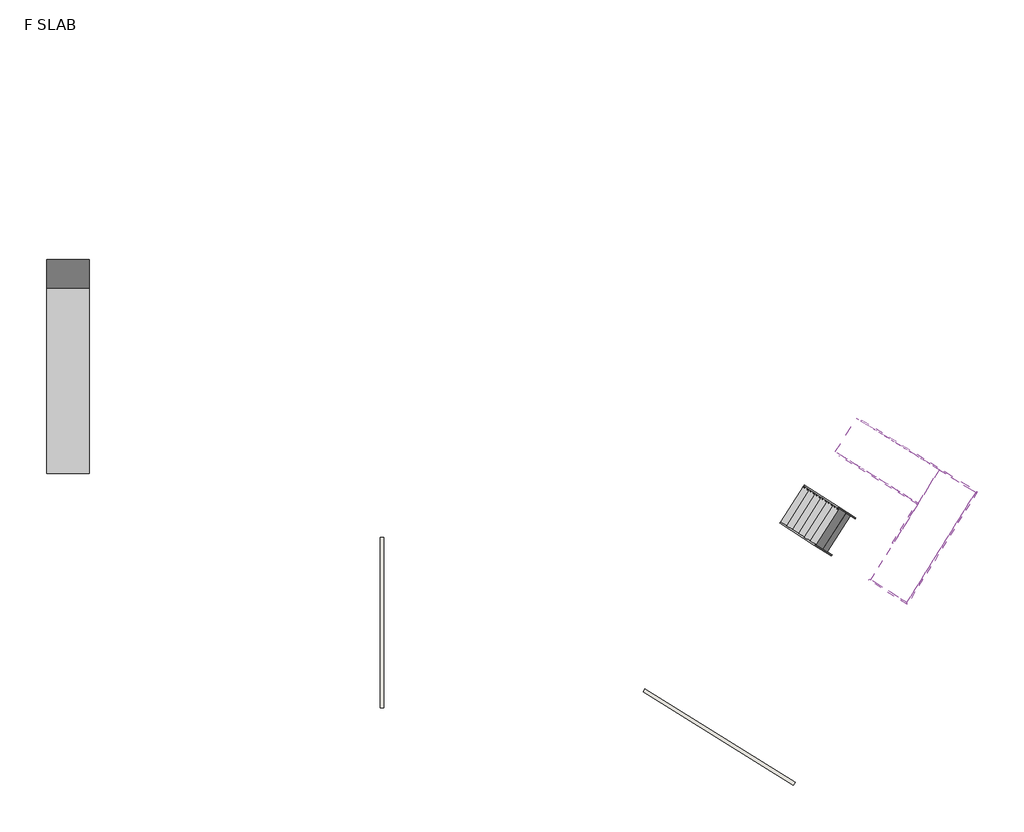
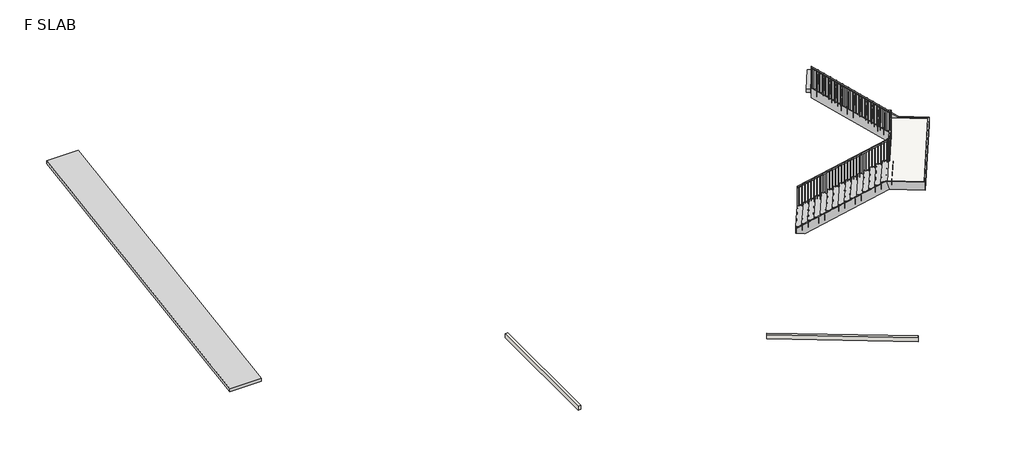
# One storey: 8 members, 2 stair flights, 2 walls, 1 railing, 1 ramp, 1 slab.
"""IFC4 building model written with IfcOpenShell, lengths in millimetres."""

from ifc_helpers import new_model, si_unit, frame, origin, place, context, project, spatial, polyline, outline, extrude, faceted_brep, transform, mapped, element, save
from components import standard_2_a2f922cc, slab_f578b30b, wood_steps_w_50mm_tread_10mm_nosing_13mm_riser_dacc1f6c, wood_steps_w_50mm_tread_10mm_nosing_13mm_riser_bbbc8e6f

model = new_model("IFC4")

# Units and contexts
model_context = context("Model", 3, world=origin())
ifc_project = project(units=[si_unit("LENGTHUNIT", "METRE", prefix="MILLI")], contexts=[model_context])

# Site, building, storey
site = spatial("IfcSite", under=ifc_project)
building = spatial("IfcBuilding", under=site)
storey = spatial("IfcBuildingStorey", under=building, Name="F SLAB", Elevation=800.0)

# Members
placement = place(None, origin())
element("IfcMember", 1, ObjectType="Stringer-50mm_Width", at=placement, inside=storey, context=model_context, shape_type="Brep", body=[
    faceted_brep([(13345.5592884, 10804.5205826, 800.0), (13372.4936271, 10846.6458885, 800.0), (13684.0745129, 10647.4253742, 800.0), (13657.1401742, 10605.3000683, 800.0), (13345.5592884, 10804.5205826, 1033.5551302), (13372.4936271, 10846.6458885, 1033.5551302), (16470.9684235, 8806.1771547, 3522.6156419), (16497.408374, 8848.6185656, 3522.2219135), (16497.408374, 8848.6185656, 3040.5252935), (16470.9684235, 8806.1771547, 3040.9190219)], [[[0, 1, 2, 3]], [[4, 5, 1, 0]], [[5, 4, 6, 7]], [[1, 5, 7, 8, 2]], [[4, 0, 3, 9, 6]], [[2, 8, 9, 3]], [[6, 9, 8, 7]]]),
])
element("IfcMember", 2, ObjectType="Stringer-50mm_Width", at=placement, inside=storey, context=model_context, shape_type="SweptSolid", body=[
    extrude(outline(polyline([(268.3870968, -400.0), (138.2570923, -206.0562433), (445.3601472, 0.0), (4620.5774421, 0.0), (4742.3368277, -400.0), (268.3870968, -400.0)])), frame((12510.5947886, 9498.6360992, 551.8585102), z_axis=(0.538686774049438, 0.8425061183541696, 0.0), x_axis=(0.699615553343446, -0.44732452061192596, 0.5571703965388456)), (0.0, 0.0, 1.0), 50.0),
])
element("IfcMember", 3, ObjectType="Stringer-50mm_Width", at=placement, inside=storey, context=model_context, shape_type="SweptSolid", body=[
    extrude(outline(polyline([(-268.3870967, -399.9999999), (0.0, 0.0), (3913.7850375, 0.0), (3645.3979407, -400.0), (-268.3870967, -399.9999999)])), frame((17368.2560586, 10151.9429544, 3717.4260979), z_axis=(0.5287625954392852, 0.8487697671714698, 0.0), x_axis=(-0.7048168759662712, 0.4390835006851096, 0.5571703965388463)), (0.0, 0.0, 1.0), 50.0),
])
element("IfcMember", 4, ObjectType="Stringer-50mm_Width", at=placement, inside=storey, context=model_context, shape_type="SweptSolid", body=[
    extrude(outline(polyline([(-464.7758546, -399.9999999), (-343.016469, 0.0), (3913.7850375, 0.0), (3645.3979407, -400.0), (-464.7758546, -399.9999999)])), frame((18133.7615472, 11380.7324356, 3717.4260979), z_axis=(0.5287625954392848, 0.8487697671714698, 0.0), x_axis=(-0.7048168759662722, 0.4390835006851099, 0.557170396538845)), (0.0, 0.0, 1.0), 50.0),
])
element("IfcMember", 5, ObjectType="Stringer-50mm_Width", at=placement, inside=storey, context=model_context, shape_type="SweptSolid", body=[
    extrude(outline(polyline([(17325.8175703, 10178.3810842), (17368.2560586, 10151.9429544), (16513.0966305, 8779.2409611), (16470.9684235, 8806.1771547), (17325.8175703, 10178.3810842)])), frame((0.0, 0.0, 3126.3074759), z_axis=(0.0, 0.0, 1.0), x_axis=(1.0, 0.0, 0.0)), (0.0, 0.0, 1.0), 400.0),
])
element("IfcMember", 6, ObjectType="Stringer-50mm_Width", at=placement, inside=storey, context=model_context, shape_type="Brep", body=[
    faceted_brep([(15667.5739439, 7539.4539864, 3526.3074759), (15640.6396052, 7497.3286805, 3526.3074759), (16999.4325807, 6628.5352218, 3526.3074759), (16983.7443242, 6697.9128263, 3526.3074759), (15770.1569712, 7473.8638158, 3126.3074759), (16983.7443242, 6697.9128263, 3126.3074759), (15743.2226325, 7431.7385099, 3126.3074759), (16999.4325807, 6628.5352218, 3126.3074759)], [[[0, 1, 2, 3]], [[4, 0, 3, 5]], [[6, 4, 5, 7]], [[1, 6, 7, 2]], [[1, 0, 4, 6]], [[2, 7, 5, 3]]]),
])
element("IfcMember", 7, ObjectType="Stringer-50mm_Width", at=placement, inside=storey, context=model_context, shape_type="SweptSolid", body=[
    extrude(outline(polyline([(16999.4325807, 6628.5352218), (16983.7443242, 6697.9128263), (19406.916198, 10587.5885424), (19475.7928161, 10603.588901), (16999.4325807, 6628.5352218)])), frame((0.0, 0.0, 3126.3074759), z_axis=(0.0, 0.0, 1.0), x_axis=(1.0, 0.0, 0.0)), (0.0, 0.0, 1.0), 400.0),
])
element("IfcMember", 8, ObjectType="Stringer-50mm_Width", at=placement, inside=storey, context=model_context, shape_type="Brep", body=[
    faceted_brep([(19406.916198, 10587.5885424, 3526.3074759), (19475.7928161, 10603.588901, 3526.3074759), (18401.9634731, 11272.5580519, 3526.3074759), (18375.5253433, 11230.1195636, 3526.3074759), (19406.916198, 10587.5885424, 3126.3074759), (18272.179658, 11294.5013723, 3126.3074759), (19475.7928161, 10603.588901, 3126.3074759), (18298.6177878, 11336.9398607, 3126.3074759)], [[[0, 1, 2, 3]], [[4, 0, 3, 5]], [[6, 4, 5, 7]], [[1, 6, 7, 2]], [[1, 0, 4, 6]], [[2, 7, 5, 3]]]),
])

# Railing
element("IfcRailing", 9, ObjectType="1100mm", at=placement, inside=storey, context=model_context, shape_type="SolidModel", body=[
    faceted_brep([(13345.3438137, 10804.1835802, 2067.7419355), (13345.3438137, 10804.1835802, 2007.529858), (13318.409475, 10762.0582742, 2007.529858), (13318.409475, 10762.0582742, 2067.7419355), (16450.2828222, 8818.9284684, 4540.5001387), (16492.4081282, 8791.9941297, 4513.8364483), (16465.4737895, 8749.8688238, 4513.8364483), (16423.3484835, 8776.8031625, 4540.5001387), (16450.2828222, 8818.9284684, 4583.8709677), (16492.4081282, 8791.9941297, 4533.8709677), (16465.4737895, 8749.8688238, 4533.8709677), (16423.3484835, 8776.8031625, 4583.8709677), (16513.2221365, 8778.6859403, 4583.8709677), (16513.2221365, 8778.6859403, 4533.8709677), (16528.910393, 8709.3083358, 4533.8709677), (16528.910393, 8709.3083358, 4583.8709677), (16552.7232801, 8842.0931796, 4583.8709677), (16552.7232801, 8842.0931796, 4533.8709677), (16595.1617685, 8815.6550499, 4533.8709677), (16595.1617685, 8815.6550499, 4583.8709677), (17355.5880067, 10130.8517131, 4583.8709677), (17382.0261364, 10173.2902014, 4533.8709677), (17424.4646248, 10146.8520717, 4533.8709677), (17398.026495, 10104.4135833, 4583.8709677), (17355.5880067, 10130.8517131, 4801.6670968), (17382.0261364, 10173.2902014, 4751.6670968), (17424.4646248, 10146.8520717, 4751.6670968), (17398.026495, 10104.4135833, 4801.6670968), (17395.2452013, 10194.5094456, 4801.6670968), (17395.2452013, 10194.5094456, 4751.6670968), (17464.1218195, 10210.5098042, 4751.6670968), (17464.1218195, 10210.5098042, 4801.6670968), (17331.5874688, 10234.1666403, 4801.6670968), (17318.6692581, 10242.2143664, 4751.6670968), (17345.1073879, 10284.6528547, 4751.6670968), (17358.0255986, 10276.6051286, 4801.6670968), (14636.4039501, 11913.1993858, 6932.2580645), (14662.8420799, 11955.6378742, 6932.2580645), (14662.8420799, 11955.6378742, 6872.045987), (14636.4039501, 11913.1993858, 6872.045987)], [[[0, 1, 2, 3]], [[1, 0, 4, 5]], [[2, 1, 5, 6]], [[3, 2, 6, 7]], [[0, 3, 7, 4]], [[5, 4, 8, 9]], [[6, 5, 9, 10]], [[7, 6, 10, 11]], [[4, 7, 11, 8]], [[9, 8, 12, 13]], [[10, 9, 13, 14]], [[11, 10, 14, 15]], [[8, 11, 15, 12]], [[13, 12, 16, 17]], [[14, 13, 17, 18]], [[15, 14, 18, 19]], [[12, 15, 19, 16]], [[17, 16, 20, 21]], [[18, 17, 21, 22]], [[19, 18, 22, 23]], [[16, 19, 23, 20]], [[21, 20, 24, 25]], [[22, 21, 25, 26]], [[23, 22, 26, 27]], [[20, 23, 27, 24]], [[25, 24, 28, 29]], [[26, 25, 29, 30]], [[27, 26, 30, 31]], [[24, 27, 31, 28]], [[29, 28, 32, 33]], [[30, 29, 33, 34]], [[31, 30, 34, 35]], [[28, 31, 35, 32]], [[36, 37, 38, 39]], [[33, 32, 36, 39]], [[34, 33, 39, 38]], [[35, 34, 38, 37]], [[32, 35, 37, 36]]]),
    extrude(outline(polyline([(108.3870968, 0.0), (91.6129032, 25.0), (1248.5517935, 25.0), (1248.5517935, 0.0), (108.3870968, 0.0)])), frame((14728.2299672, 11870.7212433, 6913.0679225), z_axis=(0.5287625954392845, 0.84876976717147, 0.0), x_axis=(0.0, 0.0, -1.0000000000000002)), (0.0, 0.0, 1.0), 25.0),
    extrude(outline(polyline([(108.3333333, 0.0), (91.6666667, 25.0), (1164.6408121, 25.0), (1164.6408121, 0.0), (108.3333333, 0.0)])), frame((14834.3261881, 11804.6259189, 6829.1569411), z_axis=(0.5287625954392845, 0.84876976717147, 0.0), x_axis=(0.0, 0.0, -1.0000000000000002)), (0.0, 0.0, 1.0), 25.0),
    extrude(outline(polyline([(108.3870968, 0.0), (91.6129032, 25.0), (1248.5517935, 25.0), (1248.5517935, 0.0), (108.3870968, 0.0)])), frame((14940.422409, 11738.5305945, 6745.325987), z_axis=(0.5287625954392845, 0.84876976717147, 0.0), x_axis=(0.0, 0.0, -1.0000000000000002)), (0.0, 0.0, 1.0), 25.0),
    extrude(outline(polyline([(108.3333333, 0.0), (91.6666666, 25.0), (1164.6408121, 25.0), (1164.6408121, 0.0), (108.3333333, 0.0)])), frame((15046.5186299, 11672.4352701, 6661.4150056), z_axis=(0.5287625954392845, 0.84876976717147, 0.0), x_axis=(0.0, 0.0, -1.0000000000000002)), (0.0, 0.0, 1.0), 25.0),
    extrude(outline(polyline([(108.3870967, 0.0), (91.6129032, 25.0), (1248.5517934, 25.0), (1248.5517934, 0.0), (108.3870967, 0.0)])), frame((15152.6148508, 11606.3399456, 6577.5840515), z_axis=(0.5287625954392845, 0.84876976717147, 0.0), x_axis=(0.0, 0.0, -1.0000000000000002)), (0.0, 0.0, 1.0), 25.0),
    extrude(outline(polyline([(108.3333333, 0.0), (91.6666666, 25.0), (1164.640812, 25.0), (1164.640812, 0.0), (108.3333333, 0.0)])), frame((15258.7110717, 11540.2446212, 6493.6730701), z_axis=(0.5287625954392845, 0.84876976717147, 0.0), x_axis=(0.0, 0.0, -1.0000000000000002)), (0.0, 0.0, 1.0), 25.0),
    extrude(outline(polyline([(108.3870967, 0.0), (91.6129032, 25.0), (1248.5517934, 25.0), (1248.5517934, 0.0), (108.3870967, 0.0)])), frame((15364.8072926, 11474.1492968, 6409.842116), z_axis=(0.5287625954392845, 0.84876976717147, 0.0), x_axis=(0.0, 0.0, -1.0000000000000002)), (0.0, 0.0, 1.0), 25.0),
    extrude(outline(polyline([(108.3333334, 0.0), (91.6666667, 25.0), (1164.6408121, 25.0), (1164.6408121, 0.0), (108.3333334, 0.0)])), frame((15470.9035135, 11408.0539723, 6325.9311347), z_axis=(0.5287625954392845, 0.84876976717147, 0.0), x_axis=(0.0, 0.0, -1.0000000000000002)), (0.0, 0.0, 1.0), 25.0),
    extrude(outline(polyline([(108.3870968, 0.0), (91.6129033, 25.0), (1248.5517935, 25.0), (1248.5517935, 0.0), (108.3870968, 0.0)])), frame((15576.9997344, 11341.9586479, 6242.1001806), z_axis=(0.5287625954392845, 0.84876976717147, 0.0), x_axis=(0.0, 0.0, -1.0000000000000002)), (0.0, 0.0, 1.0), 25.0),
    extrude(outline(polyline([(108.3333334, 0.0), (91.6666667, 24.9999999), (1164.6408121, 24.9999999), (1164.6408121, 0.0), (108.3333334, 0.0)])), frame((15683.0959552, 11275.8633235, 6158.1891992), z_axis=(0.5287625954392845, 0.84876976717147, 0.0), x_axis=(0.0, 0.0, -1.0000000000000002)), (0.0, 0.0, 1.0), 25.0),
    extrude(outline(polyline([(108.3870968, 0.0), (91.6129032, 24.9999999), (1248.5517935, 24.9999999), (1248.5517935, 0.0), (108.3870968, 0.0)])), frame((15789.1921761, 11209.767999, 6074.3582451), z_axis=(0.5287625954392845, 0.84876976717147, 0.0), x_axis=(0.0, 0.0, -1.0000000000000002)), (0.0, 0.0, 1.0), 25.0),
    extrude(outline(polyline([(108.3333333, 0.0), (91.6666667, 24.9999999), (1164.6408121, 24.9999999), (1164.6408121, 0.0), (108.3333333, 0.0)])), frame((15895.288397, 11143.6726746, 5990.4472637), z_axis=(0.5287625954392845, 0.84876976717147, 0.0), x_axis=(0.0, 0.0, -1.0000000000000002)), (0.0, 0.0, 1.0), 25.0),
    extrude(outline(polyline([(108.3870968, 0.0), (91.6129032, 24.9999999), (1248.5517935, 24.9999999), (1248.5517935, 0.0), (108.3870968, 0.0)])), frame((16001.3846179, 11077.5773502, 5906.6163096), z_axis=(0.5287625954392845, 0.84876976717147, 0.0), x_axis=(0.0, 0.0, -1.0000000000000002)), (0.0, 0.0, 1.0), 25.0),
    extrude(outline(polyline([(108.3333333, 0.0), (91.6666667, 24.9999999), (1164.6408121, 24.9999999), (1164.6408121, 0.0), (108.3333333, 0.0)])), frame((16107.4808388, 11011.4820258, 5822.7053282), z_axis=(0.5287625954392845, 0.84876976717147, 0.0), x_axis=(0.0, 0.0, -1.0000000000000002)), (0.0, 0.0, 1.0), 25.0),
    extrude(outline(polyline([(108.3870968, 0.0), (91.6129032, 24.9999999), (1248.5517935, 24.9999999), (1248.5517935, 0.0), (108.3870968, 0.0)])), frame((16213.5770597, 10945.3867013, 5738.8743741), z_axis=(0.5287625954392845, 0.84876976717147, 0.0), x_axis=(0.0, 0.0, -1.0000000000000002)), (0.0, 0.0, 1.0), 25.0),
    extrude(outline(polyline([(108.3333333, 0.0), (91.6666666, 25.0), (1164.6408121, 25.0), (1164.6408121, 0.0), (108.3333333, 0.0)])), frame((16319.6732806, 10879.2913769, 5654.9633927), z_axis=(0.5287625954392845, 0.84876976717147, 0.0), x_axis=(0.0, 0.0, -1.0000000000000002)), (0.0, 0.0, 1.0), 25.0),
    extrude(outline(polyline([(108.3870967, 0.0), (91.6129032, 25.0), (1248.5517934, 25.0), (1248.5517934, 0.0), (108.3870967, 0.0)])), frame((16425.7695015, 10813.1960525, 5571.1324386), z_axis=(0.5287625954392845, 0.84876976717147, 0.0), x_axis=(0.0, 0.0, -1.0000000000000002)), (0.0, 0.0, 1.0), 25.0),
    extrude(outline(polyline([(108.3333333, 0.0), (91.6666666, 25.0), (1164.640812, 25.0), (1164.640812, 0.0), (108.3333333, 0.0)])), frame((16531.8657224, 10747.100728, 5487.2214572), z_axis=(0.5287625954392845, 0.84876976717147, 0.0), x_axis=(0.0, 0.0, -1.0000000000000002)), (0.0, 0.0, 1.0), 25.0),
    extrude(outline(polyline([(108.3870967, 0.0), (91.6129032, 25.0), (1248.5517934, 25.0), (1248.5517934, 0.0), (108.3870967, 0.0)])), frame((16637.9619433, 10681.0054036, 5403.3905031), z_axis=(0.5287625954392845, 0.84876976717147, 0.0), x_axis=(0.0, 0.0, -1.0000000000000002)), (0.0, 0.0, 1.0), 25.0),
    extrude(outline(polyline([(108.3333334, 0.0), (91.6666667, 25.0), (1164.6408121, 25.0), (1164.6408121, 0.0), (108.3333334, 0.0)])), frame((16744.0581642, 10614.9100792, 5319.4795218), z_axis=(0.5287625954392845, 0.84876976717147, 0.0), x_axis=(0.0, 0.0, -1.0000000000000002)), (0.0, 0.0, 1.0), 25.0),
    extrude(outline(polyline([(108.3870968, 0.0), (91.6129033, 25.0), (1248.5517935, 25.0), (1248.5517935, 0.0), (108.3870968, 0.0)])), frame((16850.1543851, 10548.8147547, 5235.6485677), z_axis=(0.5287625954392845, 0.84876976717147, 0.0), x_axis=(0.0, 0.0, -1.0000000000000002)), (0.0, 0.0, 1.0), 25.0),
    extrude(outline(polyline([(108.3333334, 0.0), (91.6666667, 25.0), (1164.6408121, 25.0), (1164.6408121, 0.0), (108.3333334, 0.0)])), frame((16956.250606, 10482.7194303, 5151.7375863), z_axis=(0.5287625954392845, 0.84876976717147, 0.0), x_axis=(0.0, 0.0, -1.0000000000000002)), (0.0, 0.0, 1.0), 25.0),
    extrude(outline(polyline([(108.3870968, 0.0), (91.6129032, 25.0), (1248.5517935, 25.0), (1248.5517935, 0.0), (108.3870968, 0.0)])), frame((17062.3468269, 10416.6241059, 5067.9066322), z_axis=(0.5287625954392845, 0.84876976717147, 0.0), x_axis=(0.0, 0.0, -1.0000000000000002)), (0.0, 0.0, 1.0), 25.0),
    extrude(outline(polyline([(108.3333333, 0.0), (91.6666667, 25.0), (1164.6408121, 25.0), (1164.6408121, 0.0), (108.3333333, 0.0)])), frame((17168.4430478, 10350.5287815, 4983.9956508), z_axis=(0.5287625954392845, 0.84876976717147, 0.0), x_axis=(0.0, 0.0, -1.0000000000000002)), (0.0, 0.0, 1.0), 25.0),
    extrude(outline(polyline([(108.3870968, 0.0), (91.6129032, 25.0), (1248.5517935, 25.0), (1248.5517935, 0.0), (108.3870968, 0.0)])), frame((17274.5392687, 10284.433457, 4900.1646967), z_axis=(0.5287625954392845, 0.84876976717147, 0.0), x_axis=(0.0, 0.0, -1.0000000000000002)), (0.0, 0.0, 1.0), 25.0),
    extrude(outline(polyline([(17380.6354896, 10218.3381326), (17359.4162454, 10231.5571975), (17372.6353103, 10252.7764417), (17393.8545545, 10239.5573768), (17380.6354896, 10218.3381326)])), frame((0.0, 0.0, 3651.6129032), z_axis=(0.0, 0.0, 1.0), x_axis=(1.0, 0.0, 0.0)), (0.0, 0.0, 1.0), 1100.0541935),
    extrude(outline(polyline([(17396.13399, 10172.2960305), (17409.3530549, 10193.5152747), (17430.5722991, 10180.2962098), (17417.3532342, 10159.0769656), (17396.13399, 10172.2960305)])), frame((0.0, 0.0, 3483.8709677), z_axis=(0.0, 0.0, 1.0), x_axis=(1.0, 0.0, 0.0)), (0.0, 0.0, 1.0), 1267.796129),
    extrude(outline(polyline([(17330.0386656, 10066.1998096), (17343.2577305, 10087.4190538), (17364.4769746, 10074.1999889), (17351.2579098, 10052.9807447), (17330.0386656, 10066.1998096)])), frame((0.0, 0.0, 3483.8709677), z_axis=(0.0, 0.0, 1.0), x_axis=(1.0, 0.0, 0.0)), (0.0, 0.0, 1.0), 1050.0),
    extrude(outline(polyline([(17263.9433411, 9960.1035887), (17277.162406, 9981.3228329), (17298.3816502, 9968.103768), (17285.1625853, 9946.8845238), (17263.9433411, 9960.1035887)])), frame((0.0, 0.0, 3483.8709677), z_axis=(0.0, 0.0, 1.0), x_axis=(1.0, 0.0, 0.0)), (0.0, 0.0, 1.0), 1050.0),
    extrude(outline(polyline([(17197.8480167, 9854.0073678), (17211.0670816, 9875.226612), (17232.2863258, 9862.0075471), (17219.0672609, 9840.7883029), (17197.8480167, 9854.0073678)])), frame((0.0, 0.0, 3483.8709677), z_axis=(0.0, 0.0, 1.0), x_axis=(1.0, 0.0, 0.0)), (0.0, 0.0, 1.0), 1050.0),
    extrude(outline(polyline([(17131.7526923, 9747.9111469), (17144.9717572, 9769.1303911), (17166.1910014, 9755.9113262), (17152.9719365, 9734.692082), (17131.7526923, 9747.9111469)])), frame((0.0, 0.0, 3483.8709677), z_axis=(0.0, 0.0, 1.0), x_axis=(1.0, 0.0, 0.0)), (0.0, 0.0, 1.0), 1050.0),
    extrude(outline(polyline([(17065.6573679, 9641.814926), (17078.8764327, 9663.0341702), (17100.0956769, 9649.8151053), (17086.876612, 9628.5958611), (17065.6573679, 9641.814926)])), frame((0.0, 0.0, 3483.8709677), z_axis=(0.0, 0.0, 1.0), x_axis=(1.0, 0.0, 0.0)), (0.0, 0.0, 1.0), 1050.0),
    extrude(outline(polyline([(16999.5620434, 9535.7187051), (17012.7811083, 9556.9379493), (17034.0003525, 9543.7188844), (17020.7812876, 9522.4996402), (16999.5620434, 9535.7187051)])), frame((0.0, 0.0, 3483.8709677), z_axis=(0.0, 0.0, 1.0), x_axis=(1.0, 0.0, 0.0)), (0.0, 0.0, 1.0), 1050.0),
    extrude(outline(polyline([(16933.466719, 9429.6224842), (16946.6857839, 9450.8417284), (16967.9050281, 9437.6226635), (16954.6859632, 9416.4034193), (16933.466719, 9429.6224842)])), frame((0.0, 0.0, 3483.8709677), z_axis=(0.0, 0.0, 1.0), x_axis=(1.0, 0.0, 0.0)), (0.0, 0.0, 1.0), 1050.0),
    extrude(outline(polyline([(16867.3713946, 9323.5262633), (16880.5904595, 9344.7455075), (16901.8097036, 9331.5264426), (16888.5906387, 9310.3071984), (16867.3713946, 9323.5262633)])), frame((0.0, 0.0, 3483.8709677), z_axis=(0.0, 0.0, 1.0), x_axis=(1.0, 0.0, 0.0)), (0.0, 0.0, 1.0), 1050.0),
    extrude(outline(polyline([(16801.2760701, 9217.4300424), (16814.495135, 9238.6492866), (16835.7143792, 9225.4302217), (16822.4953143, 9204.2109775), (16801.2760701, 9217.4300424)])), frame((0.0, 0.0, 3483.8709677), z_axis=(0.0, 0.0, 1.0), x_axis=(1.0, 0.0, 0.0)), (0.0, 0.0, 1.0), 1050.0),
    extrude(outline(polyline([(16735.1807457, 9111.3338215), (16748.3998106, 9132.5530657), (16769.6190548, 9119.3340008), (16756.3999899, 9098.1147566), (16735.1807457, 9111.3338215)])), frame((0.0, 0.0, 3483.8709677), z_axis=(0.0, 0.0, 1.0), x_axis=(1.0, 0.0, 0.0)), (0.0, 0.0, 1.0), 1050.0),
    extrude(outline(polyline([(16669.0854213, 9005.2376006), (16682.3044862, 9026.4568448), (16703.5237303, 9013.2377799), (16690.3046655, 8992.0185357), (16669.0854213, 9005.2376006)])), frame((0.0, 0.0, 3483.8709677), z_axis=(0.0, 0.0, 1.0), x_axis=(1.0, 0.0, 0.0)), (0.0, 0.0, 1.0), 1050.0),
    extrude(outline(polyline([(16602.9900968, 8899.1413797), (16616.2091617, 8920.3606239), (16637.4284059, 8907.141559), (16624.209341, 8885.9223148), (16602.9900968, 8899.1413797)])), frame((0.0, 0.0, 3483.8709677), z_axis=(0.0, 0.0, 1.0), x_axis=(1.0, 0.0, 0.0)), (0.0, 0.0, 1.0), 1050.0),
    extrude(outline(polyline([(16536.8947724, 8793.0451588), (16550.1138373, 8814.264403), (16571.3330815, 8801.0453381), (16558.1140166, 8779.8260939), (16536.8947724, 8793.0451588)])), frame((0.0, 0.0, 3483.8709677), z_axis=(0.0, 0.0, 1.0), x_axis=(1.0, 0.0, 0.0)), (0.0, 0.0, 1.0), 1050.0),
    extrude(outline(polyline([(16434.8202139, 8813.978359), (16455.8828669, 8800.5111897), (16442.4156975, 8779.4485367), (16421.3530446, 8792.9157061), (16434.8202139, 8813.978359)])), frame((0.0, 0.0, 3316.1290323), z_axis=(0.0, 0.0, 1.0), x_axis=(1.0, 0.0, 0.0)), (0.0, 0.0, 1.0), 1217.7419355),
    extrude(outline(polyline([(1181.5741454, 24.9999999), (1181.5741454, 0.0), (91.6666667, 0.0), (108.3333334, 24.9999999), (1181.5741454, 24.9999999)])), frame((16337.1024327, 8846.7843835, 4497.7031777), z_axis=(0.538686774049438, 0.8425061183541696, 0.0), x_axis=(0.0, 0.0, -1.0)), (0.0, 0.0, 1.0), 25.0),
    extrude(outline(polyline([(1265.5943741, 25.0000001), (1265.5943741, 0.0), (91.6129032, 0.0), (108.3870968, 25.0000001), (1265.5943741, 25.0000001)])), frame((16231.789168, 8914.1202302, 4413.9814709), z_axis=(0.538686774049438, 0.8425061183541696, 0.0), x_axis=(0.0, 0.0, -1.0)), (0.0, 0.0, 1.0), 25.0),
    extrude(outline(polyline([(1181.5741454, 25.0000001), (1181.5741454, 0.0), (91.6666667, 0.0), (108.3333334, 25.0000001), (1181.5741454, 25.0000001)])), frame((16126.4759032, 8981.456077, 4329.9612422), z_axis=(0.538686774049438, 0.8425061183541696, 0.0), x_axis=(0.0, 0.0, -1.0)), (0.0, 0.0, 1.0), 25.0),
    extrude(outline(polyline([(1265.5943741, 25.0), (1265.5943741, 0.0), (91.6129032, 0.0), (108.3870968, 25.0), (1265.5943741, 25.0)])), frame((16021.1626384, 9048.7919238, 4246.2395354), z_axis=(0.538686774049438, 0.8425061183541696, 0.0), x_axis=(0.0, 0.0, -1.0)), (0.0, 0.0, 1.0), 25.0),
    extrude(outline(polyline([(1181.5741454, 25.0000001), (1181.5741454, 0.0), (91.6666667, 0.0), (108.3333333, 25.0000001), (1181.5741454, 25.0000001)])), frame((15915.8493736, 9116.1277705, 4162.2193067), z_axis=(0.538686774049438, 0.8425061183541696, 0.0), x_axis=(0.0, 0.0, -1.0)), (0.0, 0.0, 1.0), 25.0),
    extrude(outline(polyline([(1265.5943741, 25.0), (1265.5943741, 0.0), (91.6129032, 0.0), (108.3870968, 25.0), (1265.5943741, 25.0)])), frame((15810.5361088, 9183.4636173, 4078.4975999), z_axis=(0.538686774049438, 0.8425061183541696, 0.0), x_axis=(0.0, 0.0, -1.0)), (0.0, 0.0, 1.0), 25.0),
    extrude(outline(polyline([(1181.5741454, 25.0000001), (1181.5741454, 0.0), (91.6666667, 0.0), (108.3333333, 25.0000001), (1181.5741454, 25.0000001)])), frame((15705.222844, 9250.799464, 3994.4773712), z_axis=(0.538686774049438, 0.8425061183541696, 0.0), x_axis=(0.0, 0.0, -1.0)), (0.0, 0.0, 1.0), 25.0),
    extrude(outline(polyline([(1265.5943741, 25.0), (1265.5943741, 0.0), (91.6129032, 0.0), (108.3870967, 25.0), (1265.5943741, 25.0)])), frame((15599.9095792, 9318.1353108, 3910.7556644), z_axis=(0.538686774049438, 0.8425061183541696, 0.0), x_axis=(0.0, 0.0, -1.0)), (0.0, 0.0, 1.0), 25.0),
    extrude(outline(polyline([(1181.5741454, 25.0000001), (1181.5741454, 0.0), (91.6666666, 0.0), (108.3333333, 25.0000001), (1181.5741454, 25.0000001)])), frame((15494.5963144, 9385.4711575, 3826.7354357), z_axis=(0.538686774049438, 0.8425061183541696, 0.0), x_axis=(0.0, 0.0, -1.0)), (0.0, 0.0, 1.0), 25.0),
    extrude(outline(polyline([(1265.5943742, 25.0), (1265.5943742, 0.0), (91.6129033, 0.0), (108.3870968, 25.0), (1265.5943742, 25.0)])), frame((15389.2830496, 9452.8070043, 3743.013729), z_axis=(0.538686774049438, 0.8425061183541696, 0.0), x_axis=(0.0, 0.0, -1.0)), (0.0, 0.0, 1.0), 25.0),
    extrude(outline(polyline([(1181.5741454, 25.0), (1181.5741454, 0.0), (91.6666666, 0.0), (108.3333333, 25.0), (1181.5741454, 25.0)])), frame((15283.9697848, 9520.1428511, 3658.9935002), z_axis=(0.538686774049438, 0.8425061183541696, 0.0), x_axis=(0.0, 0.0, -1.0)), (0.0, 0.0, 1.0), 25.0),
    extrude(outline(polyline([(1265.5943741, 25.0), (1265.5943741, 0.0), (91.6129033, 0.0), (108.3870968, 25.0), (1265.5943741, 25.0)])), frame((15178.65652, 9587.4786978, 3575.2717935), z_axis=(0.538686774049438, 0.8425061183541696, 0.0), x_axis=(0.0, 0.0, -1.0)), (0.0, 0.0, 1.0), 25.0),
    extrude(outline(polyline([(1181.5741454, 24.9999999), (1181.5741454, 0.0), (91.6666667, 0.0), (108.3333334, 24.9999999), (1181.5741454, 24.9999999)])), frame((15073.3432552, 9654.8145446, 3491.2515648), z_axis=(0.538686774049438, 0.8425061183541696, 0.0), x_axis=(0.0, 0.0, -1.0)), (0.0, 0.0, 1.0), 25.0),
    extrude(outline(polyline([(1265.5943741, 25.0), (1265.5943741, 0.0), (91.6129032, 0.0), (108.3870968, 25.0), (1265.5943741, 25.0)])), frame((14968.0299904, 9722.1503913, 3407.529858), z_axis=(0.538686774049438, 0.8425061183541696, 0.0), x_axis=(0.0, 0.0, -1.0)), (0.0, 0.0, 1.0), 25.0),
    extrude(outline(polyline([(1181.5741454, 24.9999999), (1181.5741454, 0.0), (91.6666667, 0.0), (108.3333334, 24.9999999), (1181.5741454, 24.9999999)])), frame((14862.7167256, 9789.4862381, 3323.5096293), z_axis=(0.538686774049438, 0.8425061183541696, 0.0), x_axis=(0.0, 0.0, -1.0)), (0.0, 0.0, 1.0), 25.0),
    extrude(outline(polyline([(1265.5943741, 25.0), (1265.5943741, 0.0), (91.6129032, 0.0), (108.3870968, 25.0), (1265.5943741, 25.0)])), frame((14757.4034608, 9856.8220848, 3239.7879225), z_axis=(0.538686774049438, 0.8425061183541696, 0.0), x_axis=(0.0, 0.0, -1.0)), (0.0, 0.0, 1.0), 25.0),
    extrude(outline(polyline([(1181.5741454, 24.9999999), (1181.5741454, 0.0), (91.6666667, 0.0), (108.3333333, 24.9999999), (1181.5741454, 24.9999999)])), frame((14652.090196, 9924.1579316, 3155.7676938), z_axis=(0.538686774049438, 0.8425061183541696, 0.0), x_axis=(0.0, 0.0, -1.0)), (0.0, 0.0, 1.0), 25.0),
    extrude(outline(polyline([(1265.5943741, 25.0), (1265.5943741, 0.0), (91.6129032, 0.0), (108.3870968, 25.0), (1265.5943741, 25.0)])), frame((14546.7769312, 9991.4937783, 3072.045987), z_axis=(0.538686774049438, 0.8425061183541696, 0.0), x_axis=(0.0, 0.0, -1.0)), (0.0, 0.0, 1.0), 25.0),
    extrude(outline(polyline([(1181.5741454, 25.0), (1181.5741454, 0.0), (91.6666667, 0.0), (108.3333333, 25.0), (1181.5741454, 25.0)])), frame((14441.4636664, 10058.8296251, 2988.0257583), z_axis=(0.538686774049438, 0.8425061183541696, 0.0), x_axis=(0.0, 0.0, -1.0)), (0.0, 0.0, 1.0), 25.0),
    extrude(outline(polyline([(1265.5943741, 25.0), (1265.5943741, 0.0), (91.6129032, 0.0), (108.3870967, 25.0), (1265.5943741, 25.0)])), frame((14336.1504017, 10126.1654719, 2904.3040515), z_axis=(0.538686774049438, 0.8425061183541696, 0.0), x_axis=(0.0, 0.0, -1.0)), (0.0, 0.0, 1.0), 25.0),
    extrude(outline(polyline([(1181.5741454, 25.0000001), (1181.5741454, 0.0), (91.6666666, 0.0), (108.3333333, 25.0000001), (1181.5741454, 25.0000001)])), frame((14230.8371369, 10193.5013186, 2820.2838228), z_axis=(0.538686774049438, 0.8425061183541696, 0.0), x_axis=(0.0, 0.0, -1.0)), (0.0, 0.0, 1.0), 25.0),
    extrude(outline(polyline([(1265.5943741, 25.0), (1265.5943741, 0.0), (91.6129032, 0.0), (108.3870967, 25.0), (1265.5943741, 25.0)])), frame((14125.5238721, 10260.8371654, 2736.562116), z_axis=(0.538686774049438, 0.8425061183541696, 0.0), x_axis=(0.0, 0.0, -1.0)), (0.0, 0.0, 1.0), 25.0),
    extrude(outline(polyline([(1181.5741454, 25.0000001), (1181.5741454, 0.0), (91.6666666, 0.0), (108.3333333, 25.0000001), (1181.5741454, 25.0000001)])), frame((14020.2106073, 10328.1730121, 2652.5418873), z_axis=(0.538686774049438, 0.8425061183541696, 0.0), x_axis=(0.0, 0.0, -1.0)), (0.0, 0.0, 1.0), 25.0),
    extrude(outline(polyline([(1265.5943741, 25.0), (1265.5943741, 0.0), (91.6129033, 0.0), (108.3870968, 25.0), (1265.5943741, 25.0)])), frame((13914.8973425, 10395.5088589, 2568.8201806), z_axis=(0.538686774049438, 0.8425061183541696, 0.0), x_axis=(0.0, 0.0, -1.0)), (0.0, 0.0, 1.0), 25.0),
    extrude(outline(polyline([(1181.5741454, 25.0000001), (1181.5741454, 0.0), (91.6666667, 0.0), (108.3333334, 25.0000001), (1181.5741454, 25.0000001)])), frame((13809.5840777, 10462.8447056, 2484.7999519), z_axis=(0.538686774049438, 0.8425061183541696, 0.0), x_axis=(0.0, 0.0, -1.0)), (0.0, 0.0, 1.0), 25.0),
    extrude(outline(polyline([(1265.5943741, 25.0), (1265.5943741, 0.0), (91.6129032, 0.0), (108.3870968, 25.0), (1265.5943741, 25.0)])), frame((13704.2708129, 10530.1805524, 2401.0782451), z_axis=(0.538686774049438, 0.8425061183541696, 0.0), x_axis=(0.0, 0.0, -1.0)), (0.0, 0.0, 1.0), 25.0),
    extrude(outline(polyline([(1181.5741454, 25.0), (1181.5741454, 0.0), (91.6666667, 0.0), (108.3333334, 25.0), (1181.5741454, 25.0)])), frame((13598.9575481, 10597.5163992, 2317.0580164), z_axis=(0.538686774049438, 0.8425061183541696, 0.0), x_axis=(0.0, 0.0, -1.0)), (0.0, 0.0, 1.0), 25.0),
    extrude(outline(polyline([(1265.5943741, 25.0000001), (1265.5943741, 0.0), (91.6129032, 0.0), (108.3870968, 25.0000001), (1265.5943741, 25.0000001)])), frame((13493.6442833, 10664.8522459, 2233.3363096), z_axis=(0.538686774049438, 0.8425061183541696, 0.0), x_axis=(0.0, 0.0, -1.0)), (0.0, 0.0, 1.0), 25.0),
    extrude(outline(polyline([(1181.5741454, 25.0), (1181.5741454, 0.0), (91.6666667, 0.0), (108.3333333, 25.0), (1181.5741454, 25.0)])), frame((13388.3310185, 10732.1880927, 2149.3160809), z_axis=(0.538686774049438, 0.8425061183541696, 0.0), x_axis=(0.0, 0.0, -1.0)), (0.0, 0.0, 1.0), 25.0),
    extrude(outline(polyline([(17412.4643559, 10198.5095353), (17425.6834207, 10219.7287794), (17446.9026649, 10206.5097146), (17433.6836, 10185.2904704), (17412.4643559, 10198.5095353)])), frame((0.0, 0.0, 3483.8709677), z_axis=(0.0, 0.0, 1.0), x_axis=(1.0, 0.0, 0.0)), (0.0, 0.0, 1.0), 1267.796129),
    extrude(outline(polyline([(16517.2685229, 8761.2620492), (16538.3311759, 8747.7948798), (16524.8640065, 8726.7322269), (16503.8013536, 8740.1993962), (16517.2685229, 8761.2620492)])), frame((0.0, 0.0, 3483.8709677), z_axis=(0.0, 0.0, 1.0), x_axis=(1.0, 0.0, 0.0)), (0.0, 0.0, 1.0), 1050.0),
    extrude(outline(polyline([(16487.4768463, 8780.3104357), (16508.5394993, 8766.8432663), (16495.0723299, 8745.7806134), (16474.009677, 8759.2477827), (16487.4768463, 8780.3104357)])), frame((0.0, 0.0, 3483.8709677), z_axis=(0.0, 0.0, 1.0), x_axis=(1.0, 0.0, 0.0)), (0.0, 0.0, 1.0), 1050.0),
    extrude(outline(polyline([(108.3870967, 0.0), (91.6129032, 24.9999999), (1299.1427612, 24.9999999), (1299.1427612, 0.0), (108.3870967, 0.0)])), frame((14664.2327267, 11910.589943, 6963.6588902), z_axis=(0.5287625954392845, 0.84876976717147, 0.0), x_axis=(0.0, 0.0, -1.0000000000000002)), (0.0, 0.0, 1.0), 25.0),
    extrude(outline(polyline([(1148.2408121, 25.0), (1148.2408121, 0.0), (91.6666667, 0.0), (108.3333334, 25.0), (1148.2408121, 25.0)])), frame((13346.2057126, 10759.1224314, 2115.9827476), z_axis=(0.538686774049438, 0.8425061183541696, 0.0), x_axis=(0.0, 0.0, -1.0)), (0.0, 0.0, 1.0), 25.0),
])

# Ramp
standard_2_shape = standard_2_a2f922cc(model_context)
element("IfcRamp", 10, ObjectType="Standard 2", at=placement, inside=storey, context=model_context, shape_type="MappedRepresentation", body=[
    mapped(standard_2_shape, transform((0.0, 0.0, 0.0), x_axis=(1.0, 0.0, 0.0), y_axis=(0.0, 1.0, 0.0), z_axis=(0.0, 0.0, 1.0))),
])

# Slab
slab_shape = slab_f578b30b(model_context)
element("IfcSlab", 11, ObjectType="Non-Monolitic_Landing", at=placement, inside=storey, context=model_context, shape_type="MappedRepresentation", body=[
    mapped(slab_shape, transform((0.0, 0.0, 0.0), x_axis=(1.0, 0.0, 0.0), y_axis=(0.0, 1.0, 0.0), z_axis=(0.0, 0.0, 1.0))),
])

# Stair flights
wood_steps_w_50mm_tread_10mm_nosing_13mm_riser_shape = wood_steps_w_50mm_tread_10mm_nosing_13mm_riser_dacc1f6c(model_context)
element("IfcStairFlight", 12, ObjectType="Wood_Steps_w-50mm_Tread-10mm_Nosing-13mm_Riser", at=placement, inside=storey, context=model_context, shape_type="MappedRepresentation", body=[
    mapped(wood_steps_w_50mm_tread_10mm_nosing_13mm_riser_shape, transform((0.0, 0.0, 0.0), x_axis=(1.0, 0.0, 0.0), y_axis=(0.0, 1.0, 0.0), z_axis=(0.0, 0.0, 1.0))),
])
wood_steps_w_50mm_tread_10mm_nosing_13mm_riser_2_shape = wood_steps_w_50mm_tread_10mm_nosing_13mm_riser_bbbc8e6f(model_context)
element("IfcStairFlight", 13, ObjectType="Wood_Steps_w-50mm_Tread-10mm_Nosing-13mm_Riser", at=placement, inside=storey, context=model_context, shape_type="MappedRepresentation", body=[
    mapped(wood_steps_w_50mm_tread_10mm_nosing_13mm_riser_2_shape, transform((0.0, 0.0, 0.0), x_axis=(1.0, 0.0, 0.0), y_axis=(0.0, 1.0, 0.0), z_axis=(0.0, 0.0, 1.0))),
])

# Walls
element("IfcWall", 14, ObjectType="Wall-Int_12P-100Blk-12P", at=placement, inside=storey, context=model_context, shape_type="SweptSolid", body=[
    extrude(outline(polyline([(12986.8028096, 257.9920352), (7689.8073617, 3542.7243923), (7755.6834422, 3648.9568827), (13052.898275, 364.0884823), (12986.8028096, 257.9920352)])), frame((0.0, 0.0, 800.0), z_axis=(0.0, 0.0, 1.0), x_axis=(1.0, 0.0, 0.0)), (0.0, 0.0, 1.0), 200.0),
])
element("IfcWall", 15, ObjectType="Wall-Int_12P-100Blk-12P", at=placement, inside=storey, context=model_context, shape_type="SweptSolid", body=[
    extrude(outline(polyline([(-1451.9484639, 8990.0288254), (-1451.9484639, 2990.0288254), (-1576.9484639, 2990.0288254), (-1576.9484639, 8990.0288254), (-1451.9484639, 8990.0288254)])), frame((0.0, 0.0, 800.0), z_axis=(0.0, 0.0, 1.0), x_axis=(1.0, 0.0, 0.0)), (0.0, 0.0, 1.0), 200.0),
])

save(model, "model.ifc")
